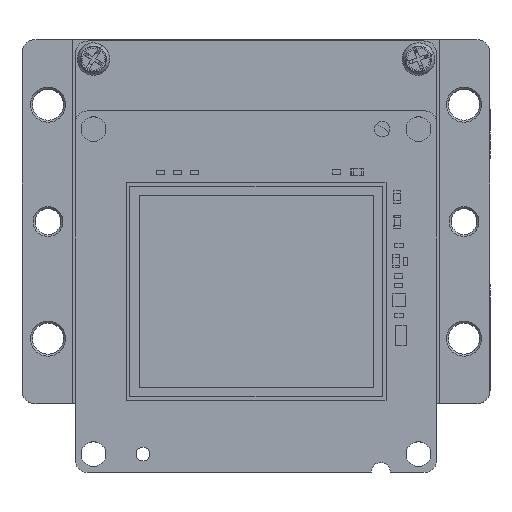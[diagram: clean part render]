
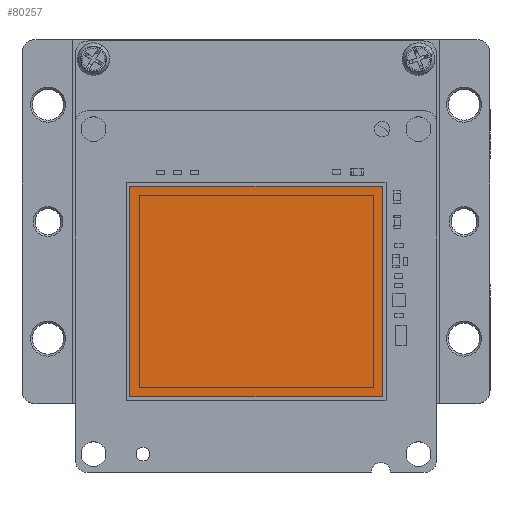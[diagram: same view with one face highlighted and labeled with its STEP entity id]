
A CAD part, top view. The second image highlights one B-rep face of the part: STEP entity #80257.
In plain terms, the highlighted planar face has unit normal (0, 0, 1).
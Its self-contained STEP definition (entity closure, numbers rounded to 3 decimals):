
#3413 = PLANE ( 'NONE',  #100101 ) ;
#7622 = LINE ( 'NONE', #229595, #41244 ) ;
#8693 = VERTEX_POINT ( 'NONE', #141198 ) ;
#15498 = VECTOR ( 'NONE', #238681, 1000. ) ;
#21250 = ORIENTED_EDGE ( 'NONE', *, *, #108806, .T. ) ;
#21650 = DIRECTION ( 'NONE',  ( 1., 0., 0. ) ) ;
#35446 = DIRECTION ( 'NONE',  ( 0., -1., 0. ) ) ;
#36233 = LINE ( 'NONE', #223988, #15498 ) ;
#38808 = FACE_OUTER_BOUND ( 'NONE', #225467, .T. ) ;
#39173 = EDGE_CURVE ( 'NONE', #8693, #222850, #36233, .T. ) ;
#41244 = VECTOR ( 'NONE', #103795, 1000. ) ;
#48286 = ORIENTED_EDGE ( 'NONE', *, *, #39173, .T. ) ;
#51187 = EDGE_CURVE ( 'NONE', #222850, #152808, #107328, .T. ) ;
#53713 = CARTESIAN_POINT ( 'NONE',  ( -9.7, -13.754, 154.49 ) ) ;
#57196 = EDGE_CURVE ( 'NONE', #219454, #8693, #99498, .T. ) ;
#59767 = CARTESIAN_POINT ( 'NONE',  ( 9.7, -13.754, 154.49 ) ) ;
#73940 = CARTESIAN_POINT ( 'NONE',  ( -9.7, -13.754, 154.49 ) ) ;
#80257 = ADVANCED_FACE ( 'NONE', ( #38808 ), #3413, .T. ) ;
#81762 = VECTOR ( 'NONE', #35446, 1000. ) ;
#99498 = LINE ( 'NONE', #230091, #157405 ) ;
#100101 = AXIS2_PLACEMENT_3D ( 'NONE', #187494, #241249, #21650 ) ;
#103795 = DIRECTION ( 'NONE',  ( 1., 0., 0. ) ) ;
#107328 = LINE ( 'NONE', #53713, #81762 ) ;
#108806 = EDGE_CURVE ( 'NONE', #152808, #219454, #7622, .T. ) ;
#127421 = DIRECTION ( 'NONE',  ( 0., 1., 0. ) ) ;
#141198 = CARTESIAN_POINT ( 'NONE',  ( 9.7, 2.446, 154.49 ) ) ;
#152808 = VERTEX_POINT ( 'NONE', #73940 ) ;
#157405 = VECTOR ( 'NONE', #127421, 1000. ) ;
#168037 = ORIENTED_EDGE ( 'NONE', *, *, #57196, .T. ) ;
#187494 = CARTESIAN_POINT ( 'NONE',  ( 0., -5.654, 154.49 ) ) ;
#209463 = ORIENTED_EDGE ( 'NONE', *, *, #51187, .T. ) ;
#216419 = CARTESIAN_POINT ( 'NONE',  ( -9.7, 2.446, 154.49 ) ) ;
#219454 = VERTEX_POINT ( 'NONE', #59767 ) ;
#222850 = VERTEX_POINT ( 'NONE', #216419 ) ;
#223988 = CARTESIAN_POINT ( 'NONE',  ( -9.7, 2.446, 154.49 ) ) ;
#225467 = EDGE_LOOP ( 'NONE', ( #21250, #168037, #48286, #209463 ) ) ;
#229595 = CARTESIAN_POINT ( 'NONE',  ( -9.7, -13.754, 154.49 ) ) ;
#230091 = CARTESIAN_POINT ( 'NONE',  ( 9.7, -13.754, 154.49 ) ) ;
#238681 = DIRECTION ( 'NONE',  ( -1., 0., 0. ) ) ;
#241249 = DIRECTION ( 'NONE',  ( 0., 0., 1. ) ) ;
